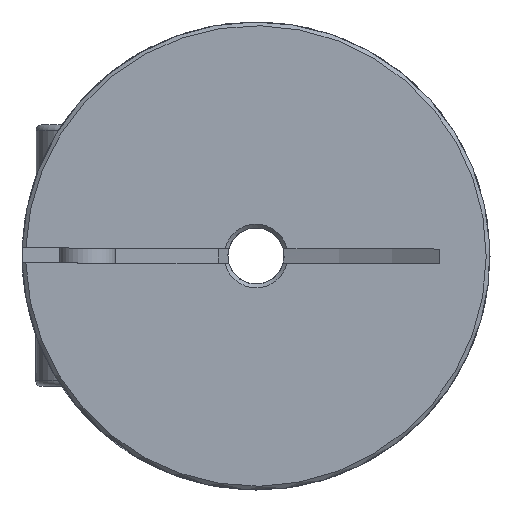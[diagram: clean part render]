
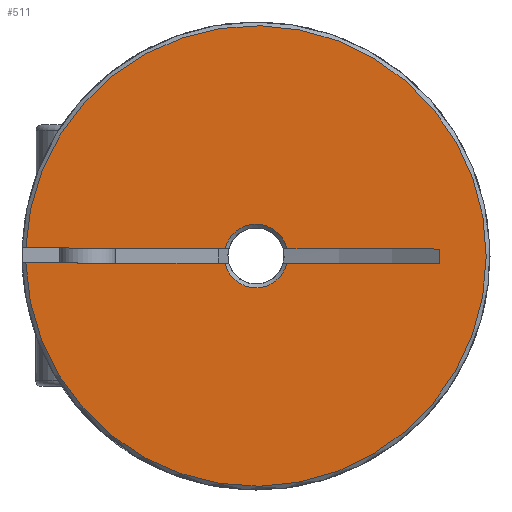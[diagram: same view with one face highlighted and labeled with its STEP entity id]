
A CAD part, left-side view. The second image highlights one B-rep face of the part: STEP entity #511.
In plain terms, the highlighted planar face has unit normal (-1, 0, 0) as drawn and (0, 0, 1) by its records, which use the part's own axes.
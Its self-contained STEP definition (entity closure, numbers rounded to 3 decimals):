
#511 = ADVANCED_FACE( 'NONE', ( #1070 ), #1071, .T. );
#1070 = FACE_OUTER_BOUND( '', #1707, .T. );
#1071 = PLANE( '', #1708 );
#1707 = EDGE_LOOP( '', ( #2761, #2762, #2763, #2764, #2765, #2766, #2767, #2768 ) );
#1708 = AXIS2_PLACEMENT_3D( '', #2769, #2770, #2771 );
#2761 = ORIENTED_EDGE( '', *, *, #3748, .F. );
#2762 = ORIENTED_EDGE( '', *, *, #3573, .T. );
#2763 = ORIENTED_EDGE( '', *, *, #3749, .F. );
#2764 = ORIENTED_EDGE( '', *, *, #3635, .T. );
#2765 = ORIENTED_EDGE( '', *, *, #3687, .T. );
#2766 = ORIENTED_EDGE( '', *, *, #3519, .T. );
#2767 = ORIENTED_EDGE( '', *, *, #3652, .T. );
#2768 = ORIENTED_EDGE( '', *, *, #3660, .F. );
#2769 = CARTESIAN_POINT( '', ( 0., 0., 11.25 ) );
#2770 = DIRECTION( '', ( 0., 0., 1. ) );
#2771 = DIRECTION( '', ( 1., 0., 0. ) );
#3519 = EDGE_CURVE( 'NONE', #4154, #4151, #4155, .F. );
#3573 = EDGE_CURVE( 'NONE', #4239, #4236, #4240, .F. );
#3635 = EDGE_CURVE( 'NONE', #4337, #4335, #4338, .T. );
#3652 = EDGE_CURVE( 'NONE', #4151, #4360, #4361, .T. );
#3660 = EDGE_CURVE( 'NONE', #4372, #4360, #4373, .F. );
#3687 = EDGE_CURVE( 'NONE', #4335, #4154, #4409, .T. );
#3748 = EDGE_CURVE( 'NONE', #4239, #4372, #4492, .F. );
#3749 = EDGE_CURVE( 'NONE', #4337, #4236, #4493, .T. );
#4151 = VERTEX_POINT( 'NONE', #4970 );
#4154 = VERTEX_POINT( 'NONE', #4976 );
#4155 = CIRCLE( '', #4977, 1.7 );
#4236 = VERTEX_POINT( 'NONE', #5127 );
#4239 = VERTEX_POINT( 'NONE', #5133 );
#4240 = CIRCLE( '', #5134, 1.7 );
#4335 = VERTEX_POINT( 'NONE', #5353 );
#4337 = VERTEX_POINT( 'NONE', #5358 );
#4338 = CIRCLE( '', #5359, 12.3 );
#4360 = VERTEX_POINT( 'NONE', #5439 );
#4361 = LINE( '', #5440, #5441 );
#4372 = VERTEX_POINT( 'NONE', #5456 );
#4373 = LINE( '', #5457, #5458 );
#4409 = LINE( '', #5502, #5503 );
#4492 = LINE( '', #5604, #5605 );
#4493 = LINE( '', #5606, #5607 );
#4970 = CARTESIAN_POINT( '', ( -1.652, -0.4, 11.25 ) );
#4976 = CARTESIAN_POINT( '', ( 1.652, -0.4, 11.25 ) );
#4977 = AXIS2_PLACEMENT_3D( '', #6050, #6051, #6052 );
#5127 = CARTESIAN_POINT( '', ( 1.652, 0.4, 11.25 ) );
#5133 = CARTESIAN_POINT( '', ( -1.652, 0.4, 11.25 ) );
#5134 = AXIS2_PLACEMENT_3D( '', #6123, #6124, #6125 );
#5353 = CARTESIAN_POINT( '', ( 12.293, -0.4, 11.25 ) );
#5358 = CARTESIAN_POINT( '', ( 12.293, 0.4, 11.25 ) );
#5359 = AXIS2_PLACEMENT_3D( '', #6232, #6233, #6234 );
#5439 = CARTESIAN_POINT( '', ( -9.815, -0.4, 11.25 ) );
#5440 = CARTESIAN_POINT( '', ( 0., -0.4, 11.25 ) );
#5441 = VECTOR( '', #6256, 1000. );
#5456 = CARTESIAN_POINT( '', ( -9.815, 0.4, 11.25 ) );
#5457 = CARTESIAN_POINT( '', ( -9.815, -0.4, 11.25 ) );
#5458 = VECTOR( '', #6267, 1000. );
#5502 = CARTESIAN_POINT( '', ( 0., -0.4, 11.25 ) );
#5503 = VECTOR( '', #6300, 1000. );
#5604 = CARTESIAN_POINT( '', ( 7., 0.4, 11.25 ) );
#5605 = VECTOR( '', #6389, 1000. );
#5606 = CARTESIAN_POINT( '', ( 0., 0.4, 11.25 ) );
#5607 = VECTOR( '', #6390, 1000. );
#6050 = CARTESIAN_POINT( '', ( 0., 0., 11.25 ) );
#6051 = DIRECTION( '', ( 0., 0., 1. ) );
#6052 = DIRECTION( '', ( 1., 0., 0. ) );
#6123 = CARTESIAN_POINT( '', ( 0., 0., 11.25 ) );
#6124 = DIRECTION( '', ( 0., 0., 1. ) );
#6125 = DIRECTION( '', ( 1., 0., 0. ) );
#6232 = CARTESIAN_POINT( '', ( 0., 0., 11.25 ) );
#6233 = DIRECTION( '', ( 0., 0., 1. ) );
#6234 = DIRECTION( '', ( 1., 0., 0. ) );
#6256 = DIRECTION( '', ( -1., 0., 0. ) );
#6267 = DIRECTION( '', ( 0., 1., 0. ) );
#6300 = DIRECTION( '', ( -1., 0., 0. ) );
#6389 = DIRECTION( '', ( 1., 0., 0. ) );
#6390 = DIRECTION( '', ( -1., 0., 0. ) );
